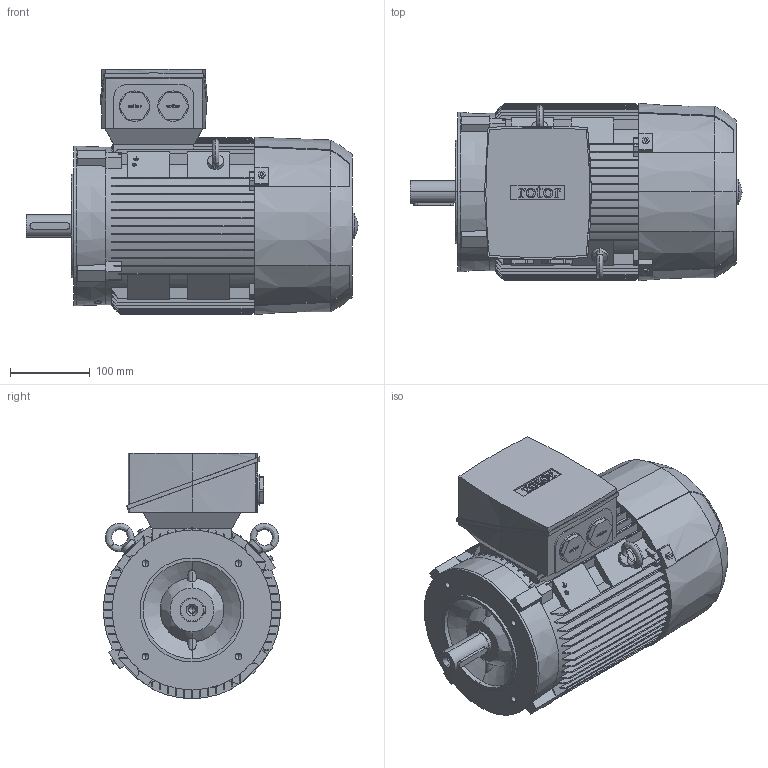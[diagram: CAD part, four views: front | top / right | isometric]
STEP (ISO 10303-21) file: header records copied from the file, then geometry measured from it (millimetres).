
FILE_DESCRIPTION (( 'STEP AP214' ), '1' );
FILE_NAME ('6RN112M04E16 IM3641-B.STEP', '2016-12-30T08:32:27', ( 'rbc_ict' ), ( 'Microsoft' ), 'SwSTEP 2.0', 'SolidWorks 2015', '' );
FILE_SCHEMA (( 'AUTOMOTIVE_DESIGN' ));
Length unit declared in the file: millimetre
Products named in the file (1): 6RN112M04E16 IM3641-B
Bounding box: 415.5 x 222 x 307 mm (x, y, z)
Volume: 13448513.7 mm3; surface area: 594463.8 mm2
Topology: 1 solids, 1 shells, 848 faces, 2347 edges, 1540 vertices
Faces by surface type: plane 476, bspline 178, cylinder 156, cone 38
Entity records: 40965 total; most frequent: CARTESIAN_POINT 12449, ORIENTED_EDGE 4670, DIRECTION 3490, EDGE_CURVE 2335, VERTEX_POINT 1540, VECTOR 1312, LINE 1312, AXIS2_PLACEMENT_3D 1089
